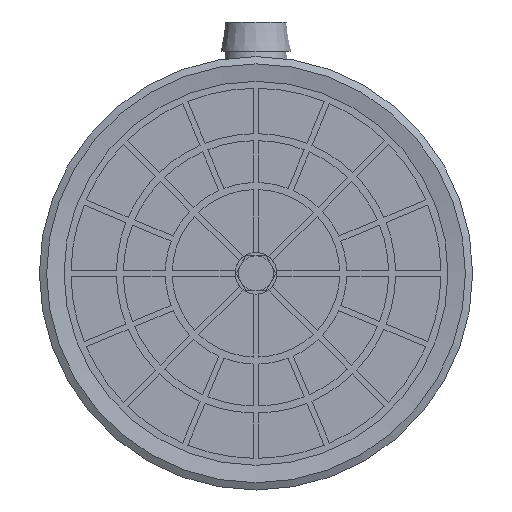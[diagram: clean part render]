
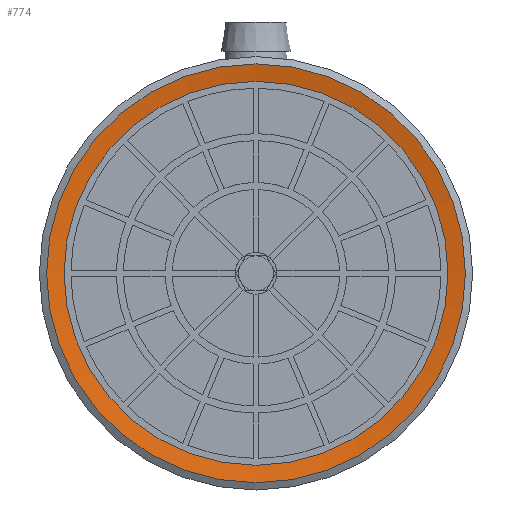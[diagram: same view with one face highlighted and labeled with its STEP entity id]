
A CAD part, front view. The second image highlights one B-rep face of the part: STEP entity #774.
In plain terms, the highlighted conical face has half-angle 80 degrees and reference radius 15 mm.
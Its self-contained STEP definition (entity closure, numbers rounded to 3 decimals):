
#774=ADVANCED_FACE('',(#1460,#1461),#1462,.F.);
#1460=FACE_BOUND('',#2286,.T.);
#1461=FACE_OUTER_BOUND('',#2287,.T.);
#1462=CONICAL_SURFACE('',#2288,15.0,1.396);
#2286=EDGE_LOOP('',(#4306));
#2287=EDGE_LOOP('',(#4307));
#2288=AXIS2_PLACEMENT_3D('',#4308,#4309,#4310);
#4306=ORIENTED_EDGE('',*,*,#5706,.T.);
#4307=ORIENTED_EDGE('',*,*,#5774,.F.);
#4308=CARTESIAN_POINT('',(0.0,0.,0.));
#4309=DIRECTION('',(0.0,0.,-1.0));
#4310=DIRECTION('',(0.0,1.0,0.));
#5706=EDGE_CURVE('',#6896,#6896,#6897,.T.);
#5774=EDGE_CURVE('',#7011,#7011,#7012,.T.);
#6896=VERTEX_POINT('',#8917);
#6897=CIRCLE('',#8918,13.75);
#7011=VERTEX_POINT('',#9076);
#7012=CIRCLE('',#9077,15.0);
#8917=CARTESIAN_POINT('',(0.0,-13.75,0.22));
#8918=AXIS2_PLACEMENT_3D('',#10281,#10282,#10283);
#9076=CARTESIAN_POINT('',(0.0,-15.0,0.));
#9077=AXIS2_PLACEMENT_3D('',#10397,#10398,#10399);
#10281=CARTESIAN_POINT('',(0.0,0.,0.22));
#10282=DIRECTION('',(0.0,0.,1.0));
#10283=DIRECTION('',(0.0,-1.0,0.));
#10397=CARTESIAN_POINT('',(0.0,0.,0.));
#10398=DIRECTION('',(0.0,0.,1.0));
#10399=DIRECTION('',(0.0,-1.0,0.));
